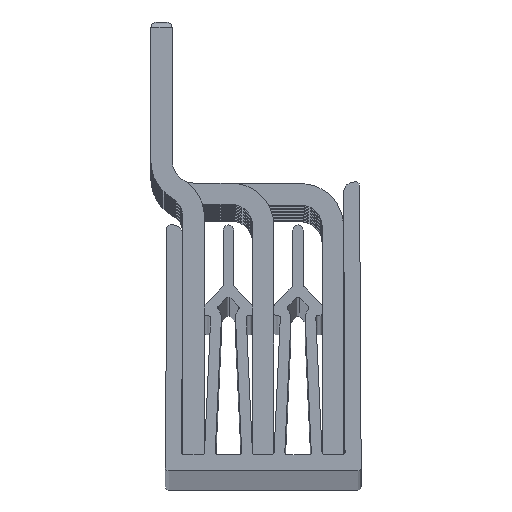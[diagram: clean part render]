
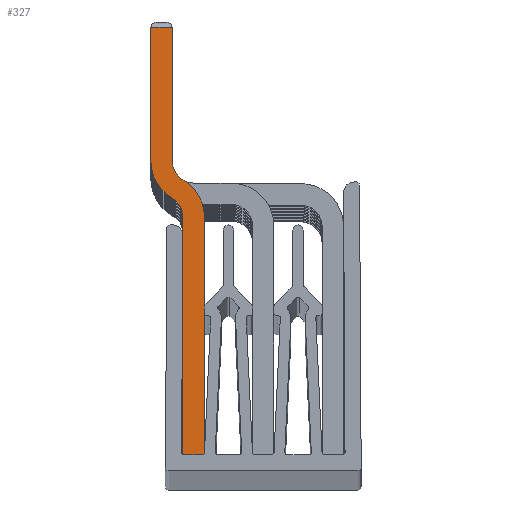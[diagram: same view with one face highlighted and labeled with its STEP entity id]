
A CAD part, top view. The second image highlights one B-rep face of the part: STEP entity #327.
In plain terms, the highlighted planar face has unit normal (0, 0, 1).
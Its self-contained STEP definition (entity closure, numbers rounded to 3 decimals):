
#5 = EDGE_CURVE ( 'NONE', #251, #15, #17947, .T. ) ;
#15 = VERTEX_POINT ( 'NONE', #17769 ) ;
#154 = EDGE_CURVE ( 'NONE', #337, #380, #26188, .T. ) ;
#155 = ORIENTED_EDGE ( 'NONE', *, *, #311, .T. ) ;
#218 = EDGE_CURVE ( 'NONE', #17976, #251, #26835, .T. ) ;
#224 = EDGE_CURVE ( 'NONE', #17976, #1312, #26795, .T. ) ;
#251 = VERTEX_POINT ( 'NONE', #26812 ) ;
#311 = EDGE_CURVE ( 'NONE', #380, #341, #27039, .T. ) ;
#321 = EDGE_CURVE ( 'NONE', #337, #355, #27124, .T. ) ;
#327 = ADVANCED_FACE ( 'NONE', ( #27085 ), #27056, .T. ) ;
#331 = EDGE_CURVE ( 'NONE', #341, #1311, #27153, .T. ) ;
#333 = ORIENTED_EDGE ( 'NONE', *, *, #154, .T. ) ;
#334 = EDGE_LOOP ( 'NONE', ( #335, #386, #387, #351, #333, #155, #368, #369, #381, #349 ) ) ;
#335 = ORIENTED_EDGE ( 'NONE', *, *, #5, .T. ) ;
#336 = EDGE_CURVE ( 'NONE', #355, #367, #27141, .T. ) ;
#337 = VERTEX_POINT ( 'NONE', #27132 ) ;
#341 = VERTEX_POINT ( 'NONE', #27048 ) ;
#349 = ORIENTED_EDGE ( 'NONE', *, *, #218, .T. ) ;
#351 = ORIENTED_EDGE ( 'NONE', *, *, #321, .F. ) ;
#355 = VERTEX_POINT ( 'NONE', #27190 ) ;
#356 = EDGE_CURVE ( 'NONE', #15, #367, #27187, .T. ) ;
#367 = VERTEX_POINT ( 'NONE', #27314 ) ;
#368 = ORIENTED_EDGE ( 'NONE', *, *, #331, .T. ) ;
#369 = ORIENTED_EDGE ( 'NONE', *, *, #1391, .F. ) ;
#380 = VERTEX_POINT ( 'NONE', #27330 ) ;
#381 = ORIENTED_EDGE ( 'NONE', *, *, #224, .F. ) ;
#386 = ORIENTED_EDGE ( 'NONE', *, *, #356, .T. ) ;
#387 = ORIENTED_EDGE ( 'NONE', *, *, #336, .F. ) ;
#1311 = VERTEX_POINT ( 'NONE', #2450 ) ;
#1312 = VERTEX_POINT ( 'NONE', #2449 ) ;
#1391 = EDGE_CURVE ( 'NONE', #1312, #1311, #2418, .T. ) ;
#2414 = DIRECTION ( 'NONE',  ( 1., 0., 0. ) ) ;
#2415 = DIRECTION ( 'NONE',  ( 0., 0., 1. ) ) ;
#2416 = CARTESIAN_POINT ( 'NONE',  ( -0.342, 23.811, 472.5 ) ) ;
#2417 = AXIS2_PLACEMENT_3D ( 'NONE', #2416, #2415, #2414 ) ;
#2418 = CIRCLE ( 'NONE', #2417, 2. ) ;
#2449 = CARTESIAN_POINT ( 'NONE',  ( 1.658, 23.811, 472.5 ) ) ;
#2450 = CARTESIAN_POINT ( 'NONE',  ( 0.659, 25.542, 472.5 ) ) ;
#17769 = CARTESIAN_POINT ( 'NONE',  ( 3.658, 23.811, 472.5 ) ) ;
#17942 = DIRECTION ( 'NONE',  ( 0., 1., 0. ) ) ;
#17944 = VECTOR ( 'NONE', #17942, 1000. ) ;
#17946 = CARTESIAN_POINT ( 'NONE',  ( 3.658, -10.31, 472.5 ) ) ;
#17947 = LINE ( 'NONE', #17946, #17944 ) ;
#17976 = VERTEX_POINT ( 'NONE', #23874 ) ;
#23874 = CARTESIAN_POINT ( 'NONE',  ( 1.658, 1.511, 472.5 ) ) ;
#26185 = DIRECTION ( 'NONE',  ( -1., 0., 0. ) ) ;
#26186 = VECTOR ( 'NONE', #26185, 1000. ) ;
#26187 = CARTESIAN_POINT ( 'NONE',  ( 3.658, 41.511, 472.5 ) ) ;
#26188 = LINE ( 'NONE', #26187, #26186 ) ;
#26795 = LINE ( 'NONE', #26859, #26858 ) ;
#26807 = DIRECTION ( 'NONE',  ( 1., 0., 0. ) ) ;
#26812 = CARTESIAN_POINT ( 'NONE',  ( 3.658, 1.511, 472.5 ) ) ;
#26835 = LINE ( 'NONE', #26882, #26881 ) ;
#26857 = DIRECTION ( 'NONE',  ( 0., 1., 0. ) ) ;
#26858 = VECTOR ( 'NONE', #26857, 1000. ) ;
#26859 = CARTESIAN_POINT ( 'NONE',  ( 1.658, -10.31, 472.5 ) ) ;
#26881 = VECTOR ( 'NONE', #26807, 1000. ) ;
#26882 = CARTESIAN_POINT ( 'NONE',  ( 1.676, 1.511, 472.5 ) ) ;
#27033 = DIRECTION ( 'NONE',  ( 0., -1., 0. ) ) ;
#27038 = CARTESIAN_POINT ( 'NONE',  ( -1.342, -10.31, 472.5 ) ) ;
#27039 = LINE ( 'NONE', #27038, #27142 ) ;
#27048 = CARTESIAN_POINT ( 'NONE',  ( -1.342, 29.011, 472.5 ) ) ;
#27052 = DIRECTION ( 'NONE',  ( 0., 0., 1. ) ) ;
#27054 = CARTESIAN_POINT ( 'NONE',  ( 1.676, -10.31, 472.5 ) ) ;
#27055 = AXIS2_PLACEMENT_3D ( 'NONE', #27054, #27052, #27159 ) ;
#27056 = PLANE ( 'NONE',  #27055 ) ;
#27085 = FACE_OUTER_BOUND ( 'NONE', #334, .T. ) ;
#27121 = DIRECTION ( 'NONE',  ( 0., -1., 0. ) ) ;
#27122 = VECTOR ( 'NONE', #27121, 1000. ) ;
#27123 = CARTESIAN_POINT ( 'NONE',  ( 0.658, -10.31, 472.5 ) ) ;
#27124 = LINE ( 'NONE', #27123, #27122 ) ;
#27132 = CARTESIAN_POINT ( 'NONE',  ( 0.658, 41.511, 472.5 ) ) ;
#27133 = DIRECTION ( 'NONE',  ( 1., 0., 0. ) ) ;
#27134 = DIRECTION ( 'NONE',  ( 0., 0., 1. ) ) ;
#27135 = CARTESIAN_POINT ( 'NONE',  ( 2.664, 29.011, 472.5 ) ) ;
#27136 = AXIS2_PLACEMENT_3D ( 'NONE', #27135, #27134, #27133 ) ;
#27141 = CIRCLE ( 'NONE', #27136, 2.007 ) ;
#27142 = VECTOR ( 'NONE', #27033, 1000. ) ;
#27149 = DIRECTION ( 'NONE',  ( 1., 0., 0. ) ) ;
#27150 = DIRECTION ( 'NONE',  ( 0., 0., 1. ) ) ;
#27151 = CARTESIAN_POINT ( 'NONE',  ( 2.664, 29.011, 472.5 ) ) ;
#27152 = AXIS2_PLACEMENT_3D ( 'NONE', #27151, #27150, #27149 ) ;
#27153 = CIRCLE ( 'NONE', #27152, 4.007 ) ;
#27159 = DIRECTION ( 'NONE',  ( 1., 0., 0. ) ) ;
#27183 = DIRECTION ( 'NONE',  ( 1., 0., 0. ) ) ;
#27184 = DIRECTION ( 'NONE',  ( 0., 0., 1. ) ) ;
#27185 = CARTESIAN_POINT ( 'NONE',  ( -0.342, 23.811, 472.5 ) ) ;
#27186 = AXIS2_PLACEMENT_3D ( 'NONE', #27185, #27184, #27183 ) ;
#27187 = CIRCLE ( 'NONE', #27186, 4. ) ;
#27190 = CARTESIAN_POINT ( 'NONE',  ( 0.658, 29.011, 472.5 ) ) ;
#27314 = CARTESIAN_POINT ( 'NONE',  ( 1.66, 27.274, 472.5 ) ) ;
#27330 = CARTESIAN_POINT ( 'NONE',  ( -1.342, 41.511, 472.5 ) ) ;
